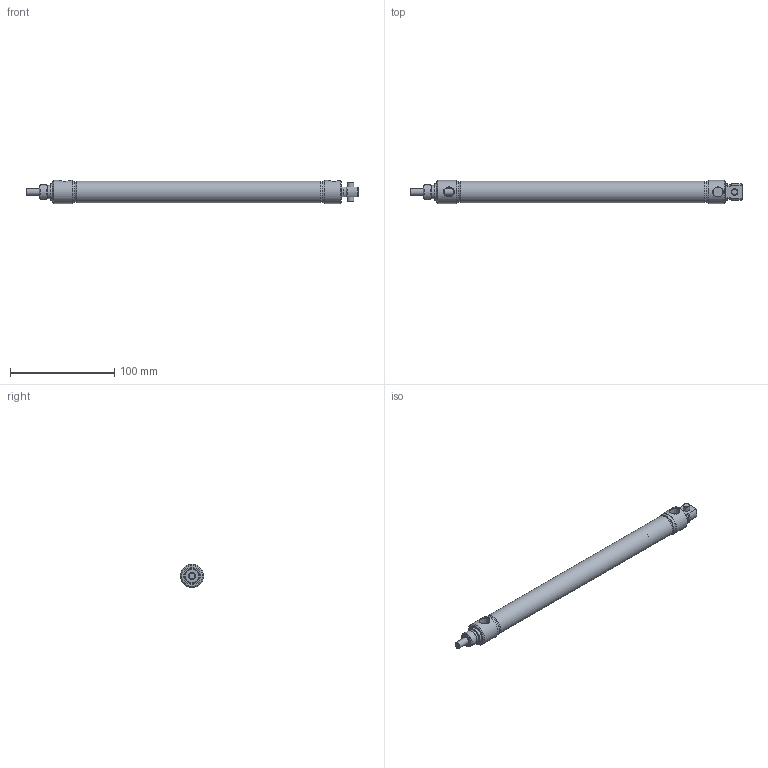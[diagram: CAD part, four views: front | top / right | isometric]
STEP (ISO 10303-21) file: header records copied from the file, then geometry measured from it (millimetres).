
FILE_DESCRIPTION( ( 'STEP AP214' ), '1' );
FILE_NAME( 'p:/temp/worker_431/temp/exporttempdir_80912_17_RBXFq/format_0/0750D02-08A-03.stp', '2020-05-07T14:43:31', ( 'License CC BY-ND 4.0' ), ( 'CADENAS' ), ' ', 'PARTsolutions', ' ' );
FILE_SCHEMA( ( 'AUTOMOTIVE_DESIGN { 1 0 10303 214 1 1 1 1 }' ) );
Length unit declared in the file: inch
Products named in the file (3): 0750D02-08A-03; _0750D02-08A-0300A00A0b; _0750D02-08A-0300A00A0r
Assembly tree (2 placements, depth 2):
  0750D02-08A-03
    _0750D02-08A-0300A00A0b
    _0750D02-08A-0300A00A0r
Bounding box: 318.29 x 22.23 x 22.23 mm (x, y, z)
Volume: 45127.9 mm3; surface area: 43478.3 mm2
Topology: 2 solids, 2 shells, 64 faces, 128 edges, 82 vertices
Faces by surface type: plane 24, cylinder 21, cone 19
Full cylindrical faces by diameter (mm): 6.35 x5, 12.609 x1, 14.287 x1, 15.85 x1, 19.05 x2, 20.472 x1, 20.65 x2, 22.225 x2
Entity records: 2302 total; most frequent: CARTESIAN_POINT 499, DIRECTION 274, ORIENTED_EDGE 198, AXIS2_PLACEMENT_3D 126, EDGE_LOOP 106, EDGE_CURVE 99, FACE_OUTER_BOUND 79, VERTEX_POINT 79
